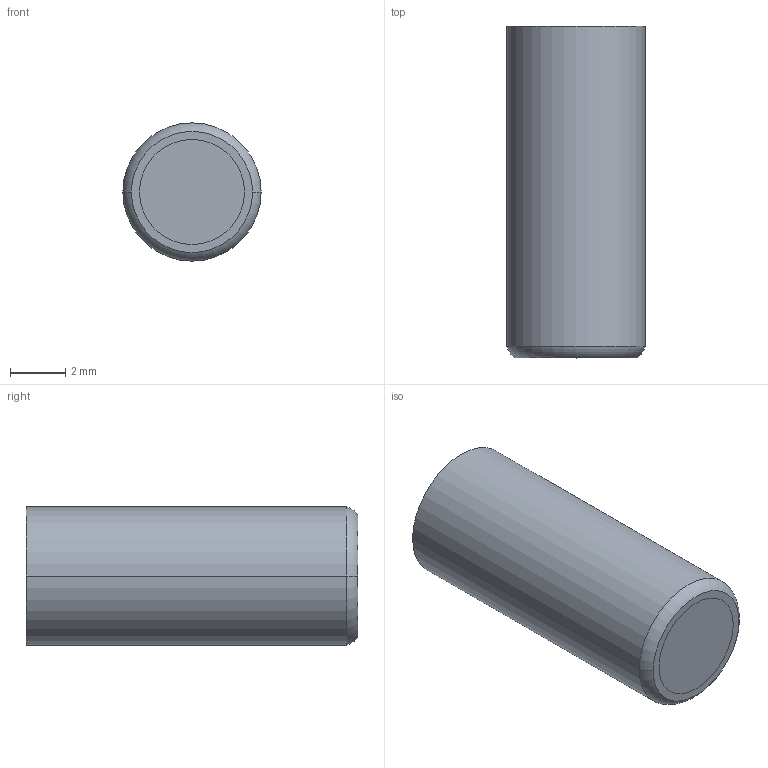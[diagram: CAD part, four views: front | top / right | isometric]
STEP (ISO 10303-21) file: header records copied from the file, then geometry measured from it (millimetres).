
FILE_DESCRIPTION (( 'STEP AP214' ), '1' );
FILE_NAME ('FA 053012-21.STEP', '2020-08-11T08:00:51', ( '' ), ( '' ), 'SwSTEP 2.0', 'SolidWorks 2019', '' );
FILE_SCHEMA (( 'AUTOMOTIVE_DESIGN' ));
Length unit declared in the file: millimetre
Products named in the file (6): FA 053000-1; FA 053000-2; IA 307514; FA 053012-21; FA 053000-3; 9FA 053012
Assembly tree (5 placements, depth 2):
  FA 053012-21
    9FA 053012
    FA 053000-1
    IA 307514
    FA 053000-3
    FA 053000-2
Bounding box: 5 x 12 x 5 mm (x, y, z)
Volume: 204.4 mm3; surface area: 601.5 mm2
Topology: 5 solids, 5 shells, 303 faces, 761 edges, 502 vertices
Faces by surface type: cylinder 138, plane 136, bspline 15, cone 12, torus 2
Entity records: 11967 total; most frequent: CARTESIAN_POINT 4177, DIRECTION 1617, ORIENTED_EDGE 1522, EDGE_CURVE 761, AXIS2_PLACEMENT_3D 592, VERTEX_POINT 502, VECTOR 433, LINE 433
